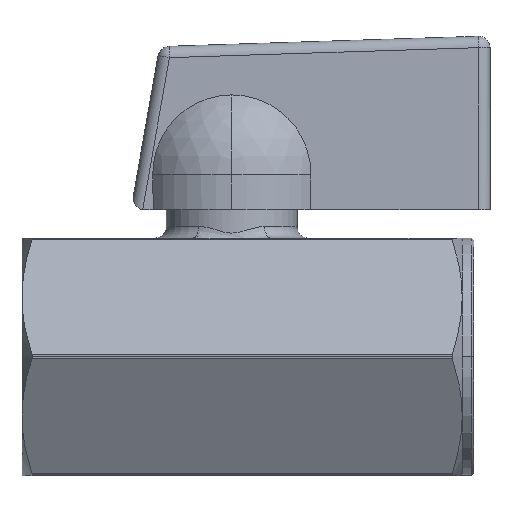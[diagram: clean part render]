
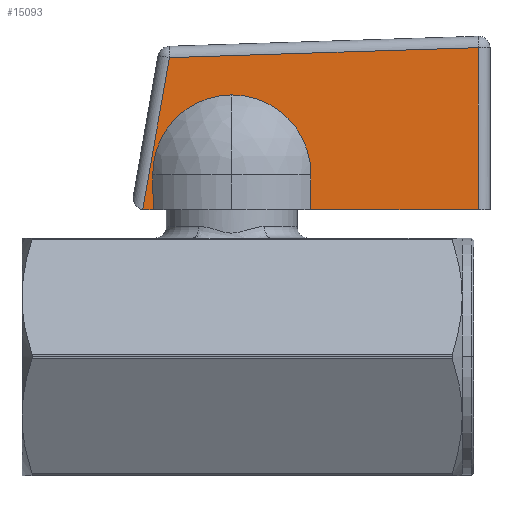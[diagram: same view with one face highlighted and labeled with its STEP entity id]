
A CAD part, top view. The second image highlights one B-rep face of the part: STEP entity #15093.
In plain terms, the highlighted planar face has unit normal (0.003, 0.017, 1) as drawn and (-0.017, -0.003, -1) by its records, which use the part's own axes.
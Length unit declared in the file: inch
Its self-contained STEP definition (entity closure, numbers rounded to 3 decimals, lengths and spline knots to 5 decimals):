
#476 = VERTEX_POINT ( 'NONE', #17555 ) ;
#710 = EDGE_CURVE ( 'NONE', #31050, #7513, #26837, .T. ) ;
#858 = CARTESIAN_POINT ( 'NONE',  ( -0.0006, 0.30244, -0.18884 ) ) ;
#1235 = LINE ( 'NONE', #9026, #10126 ) ;
#1334 = EDGE_CURVE ( 'NONE', #29392, #476, #1235, .T. ) ;
#1629 = VERTEX_POINT ( 'NONE', #11542 ) ;
#1860 = ORIENTED_EDGE ( 'NONE', *, *, #20717, .T. ) ;
#2107 = CARTESIAN_POINT ( 'NONE',  ( 0., 0.2956, -0.18883 ) ) ;
#2464 = CARTESIAN_POINT ( 'NONE',  ( 0., -0.26789, -0.18713 ) ) ;
#2725 = EDGE_CURVE ( 'NONE', #27953, #26276, #33167, .T. ) ;
#3158 = DIRECTION ( 'NONE',  ( 1., 0., -0.017 ) ) ;
#4460 = AXIS2_PLACEMENT_3D ( 'NONE', #8461, #26229, #18302 ) ;
#4557 = EDGE_CURVE ( 'NONE', #1629, #7513, #27201, .T. ) ;
#4684 = EDGE_CURVE ( 'NONE', #26276, #28331, #13052, .T. ) ;
#5189 = CARTESIAN_POINT ( 'NONE',  ( -0.0006, 0.30244, -0.18884 ) ) ;
#5500 = VERTEX_POINT ( 'NONE', #858 ) ;
#5533 = FACE_OUTER_BOUND ( 'NONE', #9143, .T. ) ;
#5747 = DIRECTION ( 'NONE',  ( 0.017, 0.003, 1. ) ) ;
#6421 = DIRECTION ( 'NONE',  ( 0.017, 0.003, 1. ) ) ;
#7073 = CARTESIAN_POINT ( 'NONE',  ( -0.11811, 0.26817, -0.18672 ) ) ;
#7491 = CARTESIAN_POINT ( 'NONE',  ( -0.07864, -0.26883, -0.18577 ) ) ;
#7513 = VERTEX_POINT ( 'NONE', #16676 ) ;
#7775 = CARTESIAN_POINT ( 'NONE',  ( -0.0002, 0.30018, -0.18884 ) ) ;
#8461 = CARTESIAN_POINT ( 'NONE',  ( 0.21877, -0.89818, -0.18898 ) ) ;
#8631 = CARTESIAN_POINT ( 'NONE',  ( 0.21877, -0.8387, -0.18916 ) ) ;
#9026 = CARTESIAN_POINT ( 'NONE',  ( -0.55168, -0.87328, -0.17581 ) ) ;
#9143 = EDGE_LOOP ( 'NONE', ( #9564, #1860, #30065, #22727, #19778, #12781, #27426, #14989, #30356, #25656 ) ) ;
#9564 = ORIENTED_EDGE ( 'NONE', *, *, #710, .F. ) ;
#9724 = EDGE_CURVE ( 'NONE', #27953, #24805, #19113, .T. ) ;
#9988 = VECTOR ( 'NONE', #22018, 39.37008 ) ;
#10126 = VECTOR ( 'NONE', #16968, 39.37008 ) ;
#10178 = CARTESIAN_POINT ( 'NONE',  ( -0.07864, 0.2677, -0.1874 ) ) ;
#11319 = CARTESIAN_POINT ( 'NONE',  ( 0., 0.34137, -0.18897 ) ) ;
#11528 = EDGE_CURVE ( 'NONE', #5500, #24805, #14445, .T. ) ;
#11542 = CARTESIAN_POINT ( 'NONE',  ( -0.11811, -0.2693, -0.18509 ) ) ;
#11626 = VECTOR ( 'NONE', #24153, 39.37008 ) ;
#11699 = CIRCLE ( 'NONE', #19409, 0.26875 ) ;
#11897 = DIRECTION ( 'NONE',  ( 0.985, 0.174, -0.017 ) ) ;
#11956 = CARTESIAN_POINT ( 'NONE',  ( -0.1213, -0.00056, -0.18585 ) ) ;
#12294 = EDGE_CURVE ( 'NONE', #28331, #1629, #11699, .T. ) ;
#12781 = ORIENTED_EDGE ( 'NONE', *, *, #9724, .F. ) ;
#13052 = CIRCLE ( 'NONE', #32867, 0.26875 ) ;
#13913 = DIRECTION ( 'NONE',  ( 0., 1., -0.003 ) ) ;
#14111 = CARTESIAN_POINT ( 'NONE',  ( 0., 0.34137, -0.18897 ) ) ;
#14325 = LINE ( 'NONE', #32600, #19019 ) ;
#14445 =( BOUNDED_CURVE ( )  B_SPLINE_CURVE ( 3, ( #5189, #7775, #18637, #18296 ),
 .UNSPECIFIED., .F., .F. ) 
 B_SPLINE_CURVE_WITH_KNOTS ( ( 4, 4 ),
 ( 0., 0.17453 ),
 .UNSPECIFIED. ) 
 CURVE ( )  GEOMETRIC_REPRESENTATION_ITEM ( )  RATIONAL_B_SPLINE_CURVE ( ( 1., 0.997, 0.997, 1. ) ) 
 REPRESENTATION_ITEM ( '' )  );
#14989 = ORIENTED_EDGE ( 'NONE', *, *, #4684, .T. ) ;
#15093 = ADVANCED_FACE ( 'NONE', ( #5533 ), #34160, .F. ) ;
#15433 = CARTESIAN_POINT ( 'NONE',  ( -0.11811, -0.2693, -0.18509 ) ) ;
#15705 = CARTESIAN_POINT ( 'NONE',  ( 0., 0.26675, -0.18875 ) ) ;
#16406 = LINE ( 'NONE', #8631, #11626 ) ;
#16568 = CARTESIAN_POINT ( 'NONE',  ( -0.39002, 0., -0.18123 ) ) ;
#16676 = CARTESIAN_POINT ( 'NONE',  ( 0., -0.26789, -0.18713 ) ) ;
#16968 = DIRECTION ( 'NONE',  ( 0.032, 0.999, -0.004 ) ) ;
#17555 = CARTESIAN_POINT ( 'NONE',  ( -0.51669, 0.21144, -0.1797 ) ) ;
#18017 = CARTESIAN_POINT ( 'NONE',  ( -0.03927, -0.26836, -0.18645 ) ) ;
#18296 = CARTESIAN_POINT ( 'NONE',  ( 0., 0.2956, -0.18883 ) ) ;
#18302 = DIRECTION ( 'NONE',  ( 0.174, -0.985, 0. ) ) ;
#18637 = CARTESIAN_POINT ( 'NONE',  ( 0., 0.29789, -0.18884 ) ) ;
#19019 = VECTOR ( 'NONE', #11897, 39.37008 ) ;
#19113 = LINE ( 'NONE', #14111, #9988 ) ;
#19409 = AXIS2_PLACEMENT_3D ( 'NONE', #11956, #6421, #27638 ) ;
#19778 = ORIENTED_EDGE ( 'NONE', *, *, #11528, .T. ) ;
#20717 = EDGE_CURVE ( 'NONE', #31050, #29392, #16406, .T. ) ;
#22018 = DIRECTION ( 'NONE',  ( 0., 1., -0.003 ) ) ;
#22727 = ORIENTED_EDGE ( 'NONE', *, *, #24395, .T. ) ;
#24027 = CARTESIAN_POINT ( 'NONE',  ( -0.1213, -0.00056, -0.18585 ) ) ;
#24153 = DIRECTION ( 'NONE',  ( -1., 0., 0.017 ) ) ;
#24395 = EDGE_CURVE ( 'NONE', #476, #5500, #14325, .T. ) ;
#24805 = VERTEX_POINT ( 'NONE', #2107 ) ;
#25656 = ORIENTED_EDGE ( 'NONE', *, *, #4557, .T. ) ;
#26064 = VECTOR ( 'NONE', #13913, 39.37008 ) ;
#26120 = CARTESIAN_POINT ( 'NONE',  ( 0., -0.8387, -0.1854 ) ) ;
#26229 = DIRECTION ( 'NONE',  ( 0.017, 0.003, 1. ) ) ;
#26276 = VERTEX_POINT ( 'NONE', #27330 ) ;
#26837 = LINE ( 'NONE', #11319, #26064 ) ;
#27201 =( BOUNDED_CURVE ( )  B_SPLINE_CURVE ( 3, ( #15433, #7491, #18017, #2464 ),
 .UNSPECIFIED., .F., .T. ) 
 B_SPLINE_CURVE_WITH_KNOTS ( ( 4, 4 ),
 ( 5.31758, 5.32516 ),
 .UNSPECIFIED. ) 
 CURVE ( )  GEOMETRIC_REPRESENTATION_ITEM ( )  RATIONAL_B_SPLINE_CURVE ( ( 1., 1., 1., 1. ) ) 
 REPRESENTATION_ITEM ( '' )  );
#27330 = CARTESIAN_POINT ( 'NONE',  ( -0.11811, 0.26817, -0.18672 ) ) ;
#27426 = ORIENTED_EDGE ( 'NONE', *, *, #2725, .T. ) ;
#27638 = DIRECTION ( 'NONE',  ( 1., 0., -0.017 ) ) ;
#27953 = VERTEX_POINT ( 'NONE', #15705 ) ;
#28131 = CARTESIAN_POINT ( 'NONE',  ( -0.03927, 0.26722, -0.18807 ) ) ;
#28331 = VERTEX_POINT ( 'NONE', #16568 ) ;
#29392 = VERTEX_POINT ( 'NONE', #29479 ) ;
#29479 = CARTESIAN_POINT ( 'NONE',  ( -0.55057, -0.8387, -0.17593 ) ) ;
#30065 = ORIENTED_EDGE ( 'NONE', *, *, #1334, .T. ) ;
#30356 = ORIENTED_EDGE ( 'NONE', *, *, #12294, .T. ) ;
#31050 = VERTEX_POINT ( 'NONE', #26120 ) ;
#32600 = CARTESIAN_POINT ( 'NONE',  ( 0.00684, 0.30375, -0.18898 ) ) ;
#32867 = AXIS2_PLACEMENT_3D ( 'NONE', #24027, #5747, #3158 ) ;
#33167 =( BOUNDED_CURVE ( )  B_SPLINE_CURVE ( 3, ( #33800, #28131, #10178, #7073 ),
 .UNSPECIFIED., .F., .F. ) 
 B_SPLINE_CURVE_WITH_KNOTS ( ( 4, 4 ),
 ( 0.95803, 0.9656 ),
 .UNSPECIFIED. ) 
 CURVE ( )  GEOMETRIC_REPRESENTATION_ITEM ( )  RATIONAL_B_SPLINE_CURVE ( ( 1., 1., 1., 1. ) ) 
 REPRESENTATION_ITEM ( '' )  );
#33800 = CARTESIAN_POINT ( 'NONE',  ( 0., 0.26675, -0.18875 ) ) ;
#34160 = PLANE ( 'NONE',  #4460 ) ;
